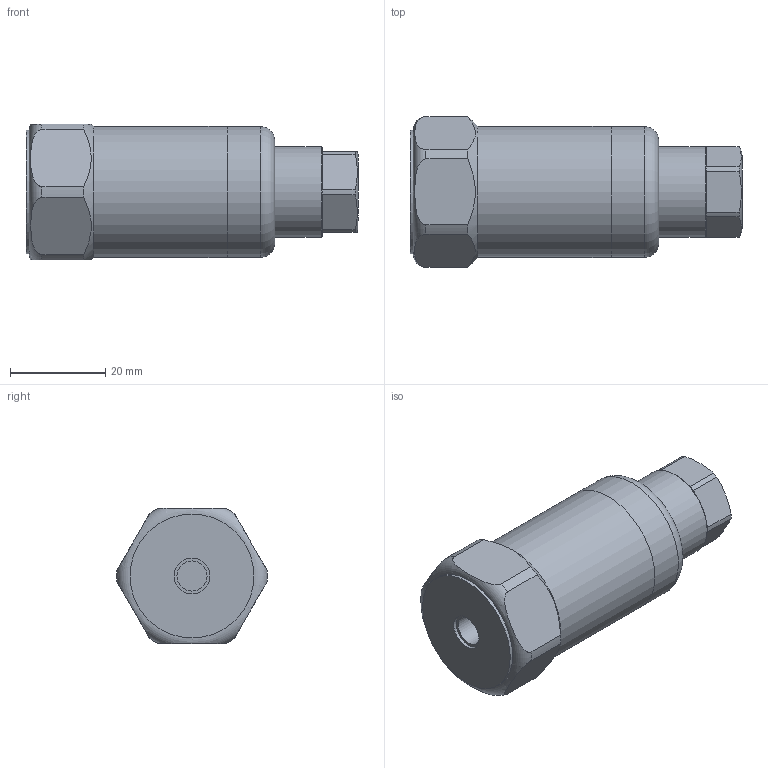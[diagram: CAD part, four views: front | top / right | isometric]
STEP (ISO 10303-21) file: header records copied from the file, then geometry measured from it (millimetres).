
FILE_DESCRIPTION(/* description */ (''),/* implementation_level */ '2;1');
FILE_NAME(/* name */ 'Z:\Engineering\Drawings\3D Library\Assemblies\Website\420 Velocity\HS-420XXX0101.stp',/* time_stamp */ '2023-05-03T13:44:22+01:00',/* author */ ('Ricardo.Peneda'),/* organization */ (''),/* preprocessor_version */ 'ST-DEVELOPER v18.1',/* originating_system */ 'Autodesk Inventor 2021',/* authorisation */ '');
FILE_SCHEMA (('AUTOMOTIVE_DESIGN { 1 0 10303 214 3 1 1 }'));
Length unit declared in the file: inch
Products named in the file (1): HS-420XXX0101_Shrinkwrap_1
Bounding box: 69.68 x 31.69 x 28.5 mm (x, y, z)
Volume: 17110.9 mm3; surface area: 12895 mm2
Topology: 3 solids, 3 shells, 67 faces, 181 edges, 131 vertices
Faces by surface type: cylinder 29, plane 29, cone 6, torus 3
Full cylindrical faces by diameter (mm): 6.3 x1, 7.5 x1, 9 x1, 11.647 x1, 12 x1, 13.882 x1, 14 x1, 15 x2, 18 x1, 19 x1, 20 x1, 25.3 x2, 26 x1, 27.5 x2
Entity records: 2456 total; most frequent: CARTESIAN_POINT 556, DIRECTION 405, ORIENTED_EDGE 362, EDGE_CURVE 181, AXIS2_PLACEMENT_3D 176, VERTEX_POINT 131, CIRCLE 108, EDGE_LOOP 82
